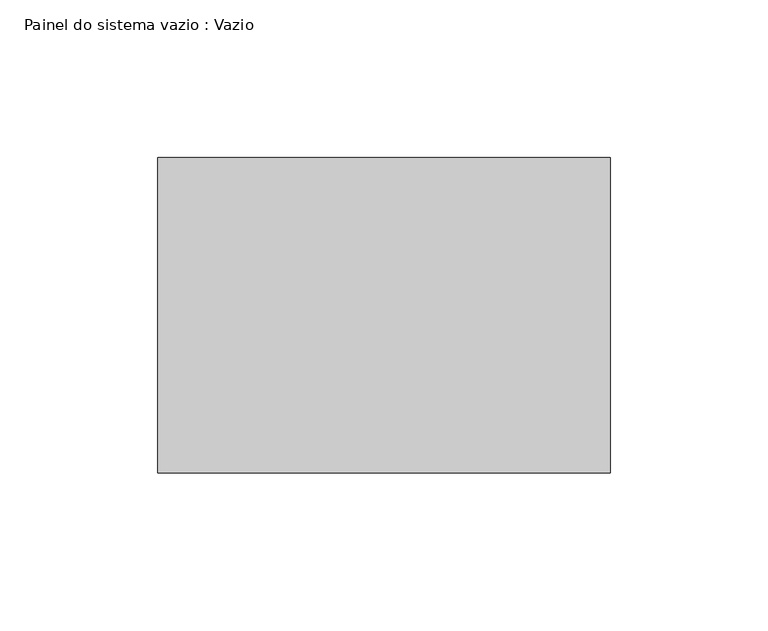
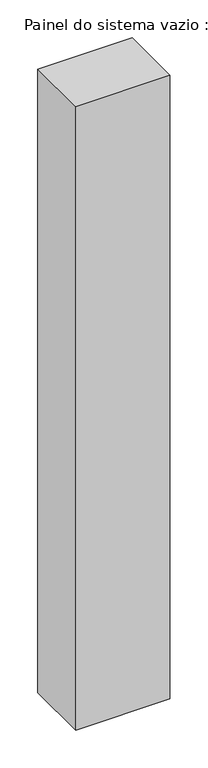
"""IFC4 building model written with IfcOpenShell, lengths in millimetres: plate geometry, Painel do sistema vazio : Vazio."""

from ifc_helpers import new_model, si_unit, origin, origin_with_axes, place, context, project, spatial, polyline, outline, extrude, source, transform, mapped, element, save


def painel_do_sistema_vazio_vazio_8c16bc2d(model_context):
    return source(origin(), model_context, "Body", "SweptSolid", [
        extrude(outline(polyline([(71.7657297, -50.0), (-71.7657297, -50.0), (-71.7657297, 50.0), (71.7657297, 50.0), (71.7657297, -50.0)])), origin_with_axes(), (0.0, 0.0, 1.0), 1005.0),
    ])


if __name__ == "__main__":
    model = new_model("IFC4")
    model_context = context("Model", 3, world=origin())
    ifc_project = project(units=[si_unit("LENGTHUNIT", "METRE", prefix="MILLI")], contexts=[model_context])
    site = spatial("IfcSite", under=ifc_project)
    building = spatial("IfcBuilding", under=site)
    placement = place(None, origin())
    painel_do_sistema_vazio_vazio_shape = painel_do_sistema_vazio_vazio_8c16bc2d(model_context)
    element("IfcPlate", 1, ObjectType="Painel do sistema vazio : Vazio", at=placement, inside=building, context=model_context, shape_type="MappedRepresentation", body=[
        mapped(painel_do_sistema_vazio_vazio_shape, transform((0.0, 0.0, 0.0), x_axis=(1.0, 0.0, 0.0), y_axis=(0.0, 1.0, 0.0), z_axis=(0.0, 0.0, 1.0))),
    ])
    save(model, "model.ifc")
